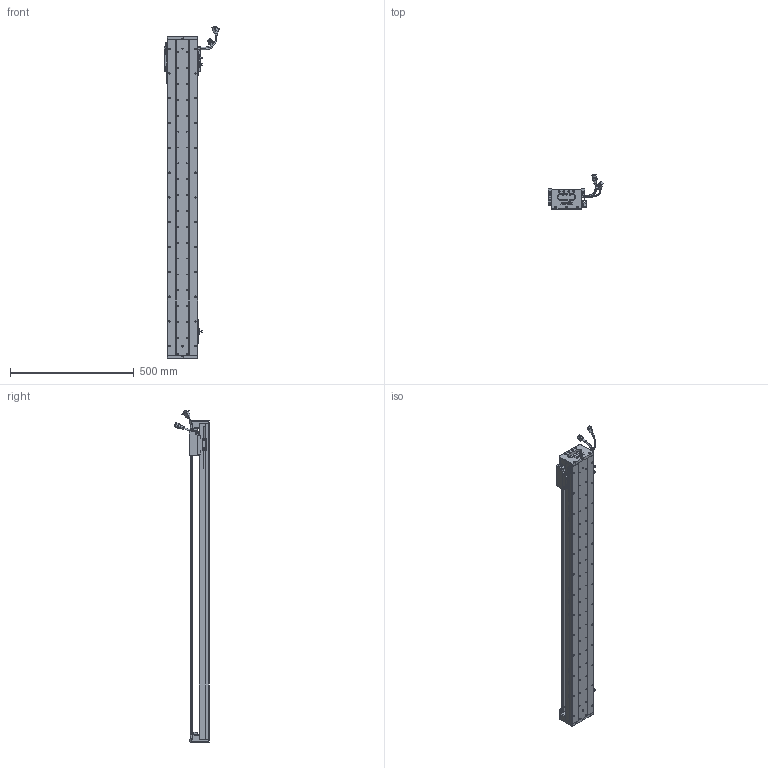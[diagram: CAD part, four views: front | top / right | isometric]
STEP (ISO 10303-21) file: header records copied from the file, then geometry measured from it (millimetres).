
FILE_DESCRIPTION (( 'STEP AP203' ), '1' );
FILE_NAME ('Z1-RY120D-1-L500-B-K.SLDASM_1100.step', '2021-05-17T03:46:23', ( '盈信电脑' ), ( '东莞市道滘镇水果街19号' ), 'SwSTEP 2.0', 'SolidWorks 2016', '' );
FILE_SCHEMA (( 'CONFIG_CONTROL_DESIGN' ));
Length unit declared in the file: millimetre
Products named in the file (37): COVER-Part-1; 140蚥薯蝶輸; SCREW-M1.7; Z-120詩湍傷裔啣; SCALE-Part-1; 140雄赽晤鎢ん堤盄; 080黍杅芛假蚾釱21遴; COVER; HARNESS-Part-1; Z1-RY120铝滑块（21款）; 672嫖萇羲壽假蚾釱; RY100FB-遵嫖萇覜茼え; LABEL-Part-1; LABEL; SCALE-Part-2; 120-Z-臏賑輸盄裔(21遴); SEAL; Z1-RY120D-1-L500-B-K.SLDASM_1100; 榋妏寠巭燃_暯_M2_2; HOLDER0; SCREW-M1.6-1; Z-RY120D詩湍奻揤裔; Z-RY120D詩湍狟揤裔; PSLH080_PSLF2; SCALE; HARNESS; SCREW-M1.6; Z1-RY120-L500詩湍100mm遵_1100; PBU_SHEET; SCREW-M1.6-2; 覜茼ん672; SHIELDPLATE; SEAL-Part-1; SCREW-M1.7-1; SCREW-M1.6-3; HARNESS-Part-2; Z1-RY120-500-倰第菁釱_1100
Assembly tree (43 placements, depth 4):
  Z1-RY120D-1-L500-B-K.SLDASM_1100
    Z1-RY120-500-倰第菁釱_1100
    覜茼ん672  x3
    672嫖萇羲壽假蚾釱  x2
    Z1-RY120铝滑块（21款）
    PSLH080_PSLF2
      SCALE
        SCALE-Part-1
        SCALE-Part-2
      HARNESS
        HARNESS-Part-1
        HARNESS-Part-2
      LABEL
        LABEL-Part-1
      COVER
        COVER-Part-1
      SEAL
        SEAL-Part-1
      榋妏寠巭燃_暯_M2_2
      SHIELDPLATE
      SCREW-M1.7
      SCREW-M1.7-1
      PBU_SHEET
      SCREW-M1.6
      SCREW-M1.6-1
      SCREW-M1.6-2
      SCREW-M1.6-3
      HOLDER0
    080黍杅芛假蚾釱21遴
    120-Z-臏賑輸盄裔(21遴)
    140雄赽晤鎢ん堤盄
    140蚥薯蝶輸  x2
    RY100FB-遵嫖萇覜茼え
    Z-120詩湍傷裔啣  x2
    Z-RY120D詩湍奻揤裔  x2
    Z-RY120D詩湍狟揤裔  x2
    Z1-RY120-L500詩湍100mm遵_1100
Bounding box: 222.88 x 140.94 x 1338.99 mm (x, y, z)
Volume: 3253544.8 mm3; surface area: 1150298.9 mm2
Topology: 38 solids, 38 shells, 2887 faces, 7910 edges, 5002 vertices
Faces by surface type: cylinder 1350, plane 1135, cone 280, torus 69, bspline 53
Entity records: 89149 total; most frequent: CARTESIAN_POINT 24924, ORIENTED_EDGE 12788, DIRECTION 12266, EDGE_CURVE 6394, AXIS2_PLACEMENT_3D 4476, VERTEX_POINT 4122, VECTOR 3314, LINE 3314
